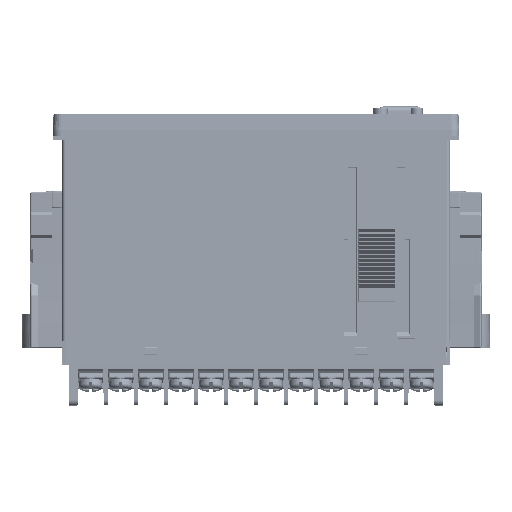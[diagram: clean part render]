
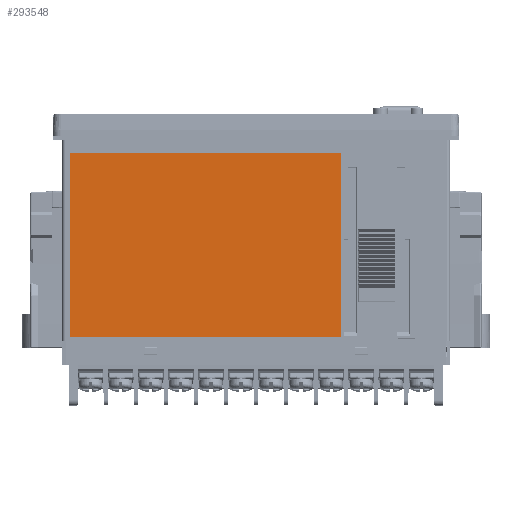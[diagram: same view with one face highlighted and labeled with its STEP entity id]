
A CAD part, left-side view. The second image highlights one B-rep face of the part: STEP entity #293548.
In plain terms, the highlighted planar face has unit normal (-1, 0, 0).
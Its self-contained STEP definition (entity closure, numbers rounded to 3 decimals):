
#13194 = ORIENTED_EDGE ( 'NONE', *, *, #362098, .T. ) ;
#15067 = LINE ( 'NONE', #90360, #42091 ) ;
#19180 = VERTEX_POINT ( 'NONE', #183228 ) ;
#42031 = VERTEX_POINT ( 'NONE', #266803 ) ;
#42091 = VECTOR ( 'NONE', #527649, 1000. ) ;
#45700 = CARTESIAN_POINT ( 'NONE',  ( -22.225, 44., -5.9 ) ) ;
#82855 = FACE_OUTER_BOUND ( 'NONE', #467632, .T. ) ;
#90360 = CARTESIAN_POINT ( 'NONE',  ( -22.225, 44., -49.4 ) ) ;
#93707 = EDGE_CURVE ( 'NONE', #116385, #19180, #15067, .T. ) ;
#103559 = DIRECTION ( 'NONE',  ( 0., -1., 0. ) ) ;
#116385 = VERTEX_POINT ( 'NONE', #402377 ) ;
#151226 = PLANE ( 'NONE',  #308598 ) ;
#183228 = CARTESIAN_POINT ( 'NONE',  ( -22.225, 44., -49.4 ) ) ;
#185521 = LINE ( 'NONE', #45700, #516118 ) ;
#208720 = ORIENTED_EDGE ( 'NONE', *, *, #299137, .T. ) ;
#266803 = CARTESIAN_POINT ( 'NONE',  ( -22.225, -20., -5.9 ) ) ;
#293548 = ADVANCED_FACE ( 'NONE', ( #82855 ), #151226, .T. ) ;
#299137 = EDGE_CURVE ( 'NONE', #442488, #42031, #337717, .T. ) ;
#308598 = AXIS2_PLACEMENT_3D ( 'NONE', #368134, #545152, #330295 ) ;
#330295 = DIRECTION ( 'NONE',  ( 0., -1., 0. ) ) ;
#337717 = LINE ( 'NONE', #487687, #512939 ) ;
#354762 = CARTESIAN_POINT ( 'NONE',  ( -22.225, -20., -49.4 ) ) ;
#362098 = EDGE_CURVE ( 'NONE', #42031, #116385, #185521, .T. ) ;
#368134 = CARTESIAN_POINT ( 'NONE',  ( -22.225, -20., -49.4 ) ) ;
#381326 = ORIENTED_EDGE ( 'NONE', *, *, #93707, .T. ) ;
#387693 = ORIENTED_EDGE ( 'NONE', *, *, #449946, .T. ) ;
#390799 = DIRECTION ( 'NONE',  ( 0., 1., 0. ) ) ;
#402377 = CARTESIAN_POINT ( 'NONE',  ( -22.225, 44., -5.9 ) ) ;
#421294 = VECTOR ( 'NONE', #103559, 1000. ) ;
#442488 = VERTEX_POINT ( 'NONE', #354762 ) ;
#449946 = EDGE_CURVE ( 'NONE', #19180, #442488, #481791, .T. ) ;
#467632 = EDGE_LOOP ( 'NONE', ( #387693, #208720, #13194, #381326 ) ) ;
#481791 = LINE ( 'NONE', #493680, #421294 ) ;
#487687 = CARTESIAN_POINT ( 'NONE',  ( -22.225, -20., -49.4 ) ) ;
#493680 = CARTESIAN_POINT ( 'NONE',  ( -22.225, 44., -49.4 ) ) ;
#512939 = VECTOR ( 'NONE', #531072, 1000. ) ;
#516118 = VECTOR ( 'NONE', #390799, 1000. ) ;
#527649 = DIRECTION ( 'NONE',  ( 0., 0., -1. ) ) ;
#531072 = DIRECTION ( 'NONE',  ( 0., 0., 1. ) ) ;
#545152 = DIRECTION ( 'NONE',  ( -1., 0., 0. ) ) ;
